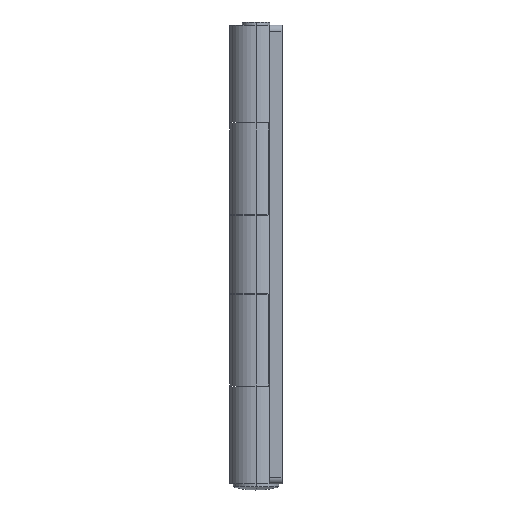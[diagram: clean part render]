
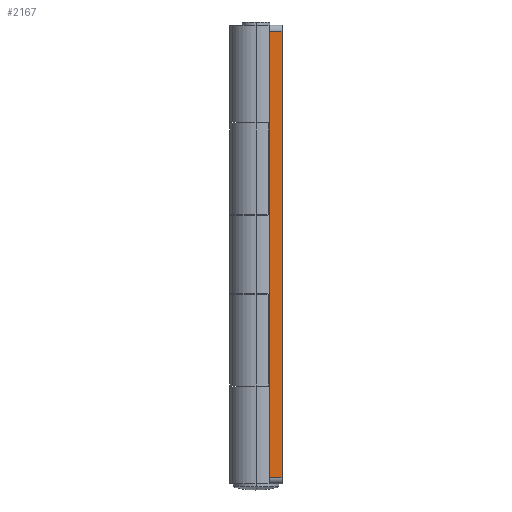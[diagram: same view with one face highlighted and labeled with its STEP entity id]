
A CAD part, left-side view. The second image highlights one B-rep face of the part: STEP entity #2167.
In plain terms, the highlighted planar face has unit normal (-1, 0, 0).
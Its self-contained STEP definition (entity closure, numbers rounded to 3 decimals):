
#30 = AXIS2_PLACEMENT_3D ( 'NONE', #1003, #2601, #2844 ) ;
#47 = EDGE_CURVE ( 'NONE', #2028, #1845, #3187, .T. ) ;
#64 = CARTESIAN_POINT ( 'NONE',  ( -25., -2.25, 75. ) ) ;
#69 = DIRECTION ( 'NONE',  ( 0., 0., -1. ) ) ;
#81 = ORIENTED_EDGE ( 'NONE', *, *, #3294, .T. ) ;
#205 = VECTOR ( 'NONE', #400, 1000. ) ;
#278 = VERTEX_POINT ( 'NONE', #3065 ) ;
#306 = ORIENTED_EDGE ( 'NONE', *, *, #1654, .T. ) ;
#331 = LINE ( 'NONE', #64, #1315 ) ;
#400 = DIRECTION ( 'NONE',  ( 0., 1., 0. ) ) ;
#559 = DIRECTION ( 'NONE',  ( 0., -1., 0. ) ) ;
#669 = LINE ( 'NONE', #1717, #205 ) ;
#716 = PLANE ( 'NONE',  #30 ) ;
#1003 = CARTESIAN_POINT ( 'NONE',  ( -25., -4.25, 75. ) ) ;
#1315 = VECTOR ( 'NONE', #3247, 1000. ) ;
#1412 = ORIENTED_EDGE ( 'NONE', *, *, #1480, .F. ) ;
#1480 = EDGE_CURVE ( 'NONE', #1524, #1845, #2163, .T. ) ;
#1524 = VERTEX_POINT ( 'NONE', #1576 ) ;
#1576 = CARTESIAN_POINT ( 'NONE',  ( -25., -4.25, 74. ) ) ;
#1619 = VECTOR ( 'NONE', #559, 1000. ) ;
#1654 = EDGE_CURVE ( 'NONE', #1524, #278, #669, .T. ) ;
#1664 = CARTESIAN_POINT ( 'NONE',  ( -25., -2.25, 1. ) ) ;
#1717 = CARTESIAN_POINT ( 'NONE',  ( -25., -4.25, 74. ) ) ;
#1745 = FACE_OUTER_BOUND ( 'NONE', #2291, .T. ) ;
#1837 = CARTESIAN_POINT ( 'NONE',  ( -25., -4.25, 75. ) ) ;
#1845 = VERTEX_POINT ( 'NONE', #3089 ) ;
#2028 = VERTEX_POINT ( 'NONE', #1664 ) ;
#2163 = LINE ( 'NONE', #1837, #2864 ) ;
#2167 = ADVANCED_FACE ( 'NONE', ( #1745 ), #716, .T. ) ;
#2291 = EDGE_LOOP ( 'NONE', ( #81, #3232, #1412, #306 ) ) ;
#2601 = DIRECTION ( 'NONE',  ( -1., 0., 0. ) ) ;
#2844 = DIRECTION ( 'NONE',  ( 0., 0., 1. ) ) ;
#2864 = VECTOR ( 'NONE', #69, 1000. ) ;
#2932 = CARTESIAN_POINT ( 'NONE',  ( -25., -4.25, 1. ) ) ;
#3065 = CARTESIAN_POINT ( 'NONE',  ( -25., -2.25, 74. ) ) ;
#3089 = CARTESIAN_POINT ( 'NONE',  ( -25., -4.25, 1. ) ) ;
#3187 = LINE ( 'NONE', #2932, #1619 ) ;
#3232 = ORIENTED_EDGE ( 'NONE', *, *, #47, .T. ) ;
#3247 = DIRECTION ( 'NONE',  ( 0., 0., -1. ) ) ;
#3294 = EDGE_CURVE ( 'NONE', #278, #2028, #331, .T. ) ;
